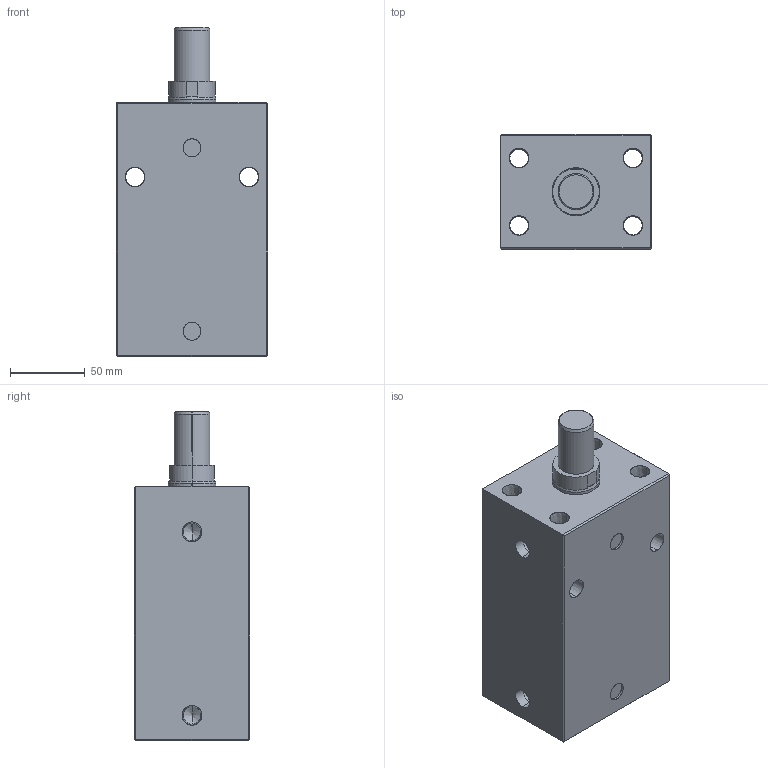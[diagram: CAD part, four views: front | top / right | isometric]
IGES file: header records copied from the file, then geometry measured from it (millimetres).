
Start section: SolidWorks IGES file using analytic representation for surfaces
Global section: file name: E:\ALL-SSVT-BLOCK\50BORE-IGS-MODEL\BC04-50-100-M.IGS; native system: SolidWorks 2019; preprocessor: SolidWorks 2019; author: SSVT; date: 210825.154615; units: millimetre
Bounding box: 101 x 77 x 220 mm (x, y, z)
Surface area: 141792.8 mm2 (no closed solid volume)
Topology: 0 solids, 0 shells, 90 faces, 1751 edges, 1747 vertices
Faces by surface type: revolution 57, bspline 33
